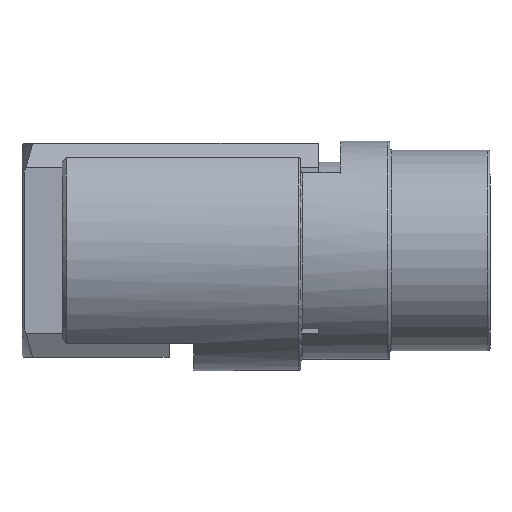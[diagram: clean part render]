
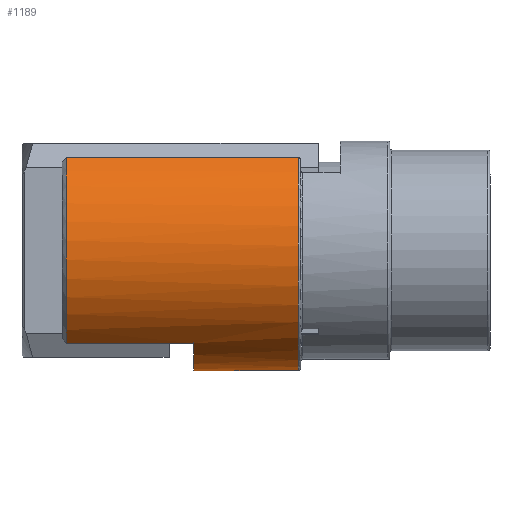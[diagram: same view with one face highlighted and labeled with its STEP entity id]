
A CAD part, left-side view. The second image highlights one B-rep face of the part: STEP entity #1189.
In plain terms, the highlighted cylindrical face has radius 14.287 mm (diameter 28.575 mm), a partial arc.
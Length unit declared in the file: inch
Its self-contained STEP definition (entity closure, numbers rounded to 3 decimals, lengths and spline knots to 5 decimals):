
#143=FACE_OUTER_BOUND('',#211,.T.);
#211=EDGE_LOOP('',(#1029,#1030,#1031,#1032,#1033,#1034,#1035,#1036));
#302=LINE('',#2152,#375);
#304=LINE('',#2164,#377);
#312=LINE('',#2229,#385);
#313=LINE('',#2232,#386);
#375=VECTOR('',#1592,0.3937);
#377=VECTOR('',#1594,0.3937);
#385=VECTOR('',#1630,0.3937);
#386=VECTOR('',#1633,0.3937);
#440=CIRCLE('',#1325,0.5625);
#441=CIRCLE('',#1327,0.5625);
#442=CIRCLE('',#1328,0.5625);
#443=CIRCLE('',#1329,0.5625);
#551=VERTEX_POINT('',#2149);
#552=VERTEX_POINT('',#2151);
#555=VERTEX_POINT('',#2159);
#556=VERTEX_POINT('',#2163);
#567=VERTEX_POINT('',#2212);
#568=VERTEX_POINT('',#2226);
#569=VERTEX_POINT('',#2228);
#570=VERTEX_POINT('',#2230);
#709=EDGE_CURVE('',#552,#551,#302,.T.);
#713=EDGE_CURVE('',#556,#555,#304,.T.);
#730=EDGE_CURVE('',#556,#567,#440,.T.);
#732=EDGE_CURVE('',#552,#555,#441,.T.);
#733=EDGE_CURVE('',#551,#568,#442,.T.);
#734=EDGE_CURVE('',#568,#569,#312,.T.);
#735=EDGE_CURVE('',#570,#569,#443,.T.);
#736=EDGE_CURVE('',#570,#567,#313,.T.);
#1029=ORIENTED_EDGE('',*,*,#713,.T.);
#1030=ORIENTED_EDGE('',*,*,#732,.F.);
#1031=ORIENTED_EDGE('',*,*,#709,.T.);
#1032=ORIENTED_EDGE('',*,*,#733,.T.);
#1033=ORIENTED_EDGE('',*,*,#734,.T.);
#1034=ORIENTED_EDGE('',*,*,#735,.F.);
#1035=ORIENTED_EDGE('',*,*,#736,.T.);
#1036=ORIENTED_EDGE('',*,*,#730,.F.);
#1143=CYLINDRICAL_SURFACE('',#1326,0.5625);
#1189=ADVANCED_FACE('',(#143),#1143,.T.);
#1325=AXIS2_PLACEMENT_3D('',#2213,#1622,#1623);
#1326=AXIS2_PLACEMENT_3D('',#2224,#1624,#1625);
#1327=AXIS2_PLACEMENT_3D('',#2225,#1626,#1627);
#1328=AXIS2_PLACEMENT_3D('',#2227,#1628,#1629);
#1329=AXIS2_PLACEMENT_3D('',#2231,#1631,#1632);
#1592=DIRECTION('',(0.,-1.,0.));
#1594=DIRECTION('',(0.,1.,0.));
#1622=DIRECTION('center_axis',(0.,-1.,0.));
#1623=DIRECTION('ref_axis',(0.,0.,1.));
#1624=DIRECTION('center_axis',(0.,-1.,0.));
#1625=DIRECTION('ref_axis',(0.,0.,-1.));
#1626=DIRECTION('center_axis',(0.,1.,0.));
#1627=DIRECTION('ref_axis',(0.,0.,1.));
#1628=DIRECTION('center_axis',(0.,-1.,0.));
#1629=DIRECTION('ref_axis',(0.,0.,-1.));
#1630=DIRECTION('',(0.,1.,0.));
#1631=DIRECTION('center_axis',(0.,1.,0.));
#1632=DIRECTION('ref_axis',(0.,0.,1.));
#1633=DIRECTION('',(0.,-1.,0.));
#2149=CARTESIAN_POINT('',(-0.3575,1.385,-0.43428));
#2151=CARTESIAN_POINT('',(-0.3575,1.98,-0.43428));
#2152=CARTESIAN_POINT('',(-0.3575,1.4425,-0.43428));
#2159=CARTESIAN_POINT('',(-0.3575,1.98,0.43428));
#2163=CARTESIAN_POINT('',(-0.3575,0.895,0.43428));
#2164=CARTESIAN_POINT('',(-0.3575,1.4425,0.43428));
#2212=CARTESIAN_POINT('',(0.3575,0.895,0.43428));
#2213=CARTESIAN_POINT('Origin',(0.,0.895,0.));
#2224=CARTESIAN_POINT('Origin',(0.,1.4425,0.));
#2225=CARTESIAN_POINT('Origin',(0.,1.98,0.));
#2226=CARTESIAN_POINT('',(0.3575,1.385,-0.43428));
#2227=CARTESIAN_POINT('Origin',(0.,1.385,0.));
#2228=CARTESIAN_POINT('',(0.3575,1.98,-0.43428));
#2229=CARTESIAN_POINT('',(0.3575,1.4425,-0.43428));
#2230=CARTESIAN_POINT('',(0.3575,1.98,0.43428));
#2231=CARTESIAN_POINT('Origin',(0.,1.98,0.));
#2232=CARTESIAN_POINT('',(0.3575,1.4425,0.43428));
